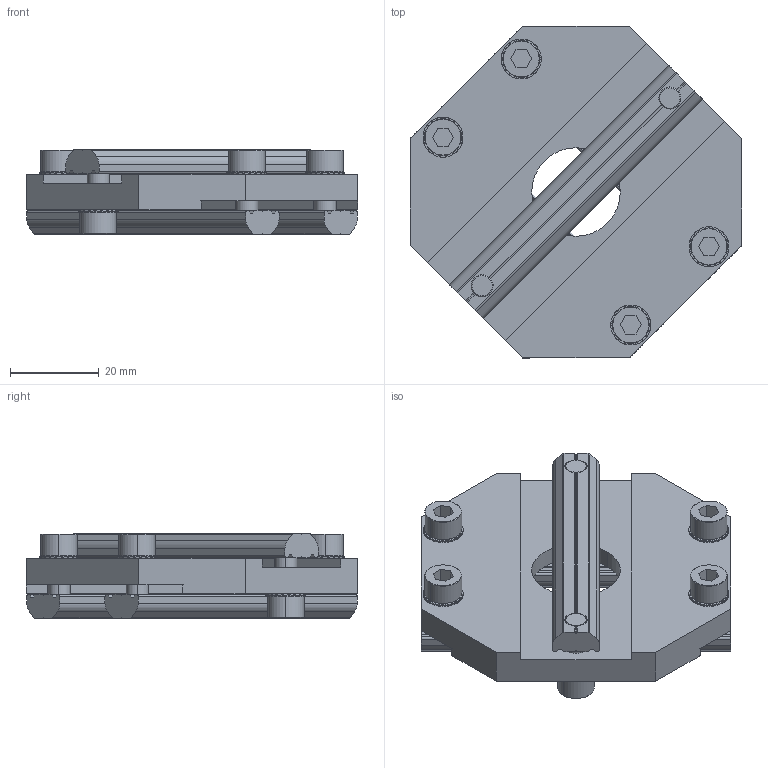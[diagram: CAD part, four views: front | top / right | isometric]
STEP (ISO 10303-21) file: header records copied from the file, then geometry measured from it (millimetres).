
FILE_DESCRIPTION (( 'STEP AP214' ), '1' );
FILE_NAME ('SMBA-2550.STEP', '2019-10-31T02:09:49', ( '微软用户' ), ( '微软中国' ), 'SwSTEP 2.0', 'SolidWorks 2016', '' );
FILE_SCHEMA (( 'AUTOMOTIVE_DESIGN' ));
Length unit declared in the file: millimetre
Products named in the file (5): SMBA-2550; PTS-M5; PTN-M5P60; PTC-M5L14
Assembly tree (16 placements, depth 2):
  SMBA-2550
    SMBA-2550
    PTC-M5L14  x6
    PTN-M5P60  x3
    PTS-M5  x6
Bounding box: 75 x 75 x 19.1 mm (x, y, z)
Volume: 35040.5 mm3; surface area: 21330.9 mm2
Topology: 16 solids, 16 shells, 1286 faces, 3762 edges, 2496 vertices
Faces by surface type: plane 1122, cylinder 128, cone 36
Entity records: 9328 total; most frequent: CARTESIAN_POINT 1775, DIRECTION 1564, ORIENTED_EDGE 1560, EDGE_CURVE 780, AXIS2_PLACEMENT_3D 531, VERTEX_POINT 518, LINE 502, VECTOR 502
